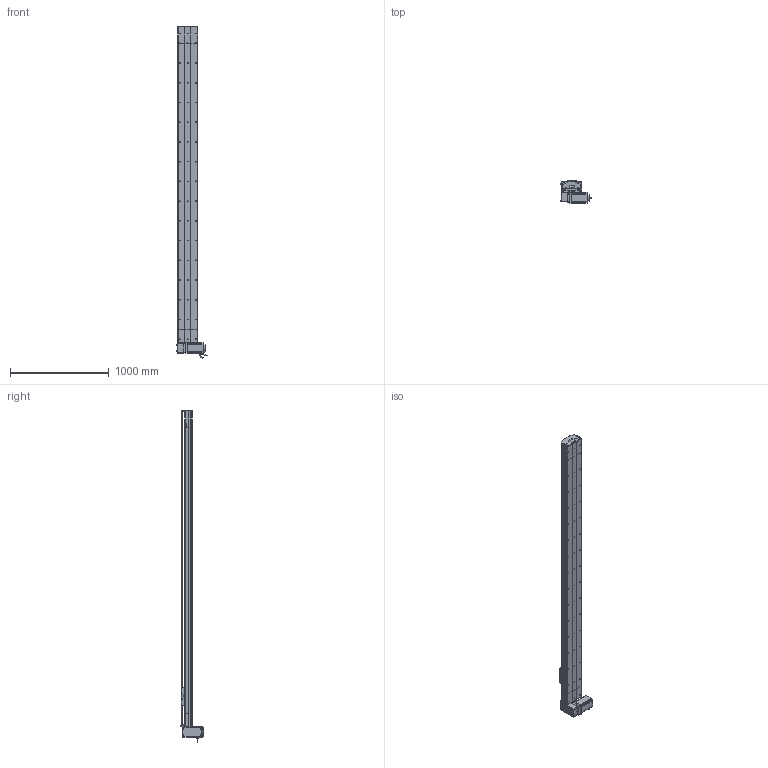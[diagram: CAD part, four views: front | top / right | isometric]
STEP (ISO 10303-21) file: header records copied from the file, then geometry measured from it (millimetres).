
FILE_DESCRIPTION (( 'STEP AP214' ), '1' );
FILE_NAME ('D20 TBH RU S2900.STEP', '2010-07-01T08:23:40', ( 'Conseil Régional Haute-Normandie' ), ( 'Conseil Régional Haute-Normandie' ), 'SwSTEP 2.0', 'SolidWorks 2010', '' );
FILE_SCHEMA (( 'AUTOMOTIVE_DESIGN' ));
Length unit declared in the file: millimetre
Products named in the file (40): poulie head D20_Default; Moteur motionking 110BLDC170A-640x; vis M5 L70_Default; couroie_Default; cache D20_Default; cache arbre D20_Default; Plaque racord D20LH_Default; Renvoi RU D20_Default; vis M5 L5_Default; avant 110BLDC170A-630x; plaque de  bout head D20B RU_Default; vis M5 L8 90°_Default; vis M5 L25_Default; vis M5 L12_Default; rail tail D20; tete d''axe poulie D20B; couvercle tail D20_Default; Couroie tail D20_Default; plaque de  bout tail D20_Default; poulie tail D20_Default; corps 110BLDC170A-630x; clavette; Conecteur_Default; Conecteur2_Default; codeur 110BLDC170A-630x; corpl tail D20 +100_Default; tail D20+100_Default; vis M8 L12_Default; Chariot D20B; chariot D20B_Default; D20 TBH RU S2900; corp D20 S2900_Default; Course B L2900_Default; guide D20B; head RU_Default; rail + couroie  D20 S2900; couvercle D20 S2900_Default; couvercle head D20_Default; rail head D20; corpl head D20_Default
Assembly tree (71 placements, depth 4):
  D20 TBH RU S2900
    Course B L2900_Default
      rail + couroie  D20 S2900
      corp D20 S2900_Default
      couvercle D20 S2900_Default
    head RU_Default
      vis M5 L25_Default  x2
      couroie_Default
      vis M5 L70_Default  x4
      vis M5 L12_Default  x10
      vis M8 L12_Default  x4
      cache D20_Default  x2
      Moteur motionking 110BLDC170A-640x
        clavette
        Conecteur_Default
        corps 110BLDC170A-630x
        avant 110BLDC170A-630x
        Conecteur2_Default
        codeur 110BLDC170A-630x
      cache arbre D20_Default
      plaque de  bout head D20B RU_Default
      Renvoi RU D20_Default
      corpl head D20_Default
      vis M5 L5_Default  x4
      Plaque racord D20LH_Default
      couvercle head D20_Default
      rail head D20
      poulie head D20_Default
    chariot D20B_Default
      vis M5 L12_Default  x4
      guide D20B  x2
      Chariot D20B
    tail D20+100_Default
      plaque de  bout tail D20_Default
      vis M5 L8 90°_Default  x2
      couvercle tail D20_Default
      rail tail D20
      tete d''axe poulie D20B
      corpl tail D20 +100_Default
      vis M5 L12_Default  x4
      Couroie tail D20_Default
      poulie tail D20_Default
      vis M5 L25_Default  x2
Bounding box: 304.2 x 223.2 x 3365 mm (x, y, z)
Volume: 26396961.1 mm3; surface area: 6501154.3 mm2
Topology: 95 solids, 95 shells, 2867 faces, 7377 edges, 4769 vertices
Faces by surface type: plane 1648, cylinder 895, bspline 136, cone 99, torus 89
Entity records: 92918 total; most frequent: CARTESIAN_POINT 30207, ORIENTED_EDGE 11410, DIRECTION 10706, EDGE_CURVE 5705, VERTEX_POINT 3755, LINE 3614, VECTOR 3614, AXIS2_PLACEMENT_3D 3546
